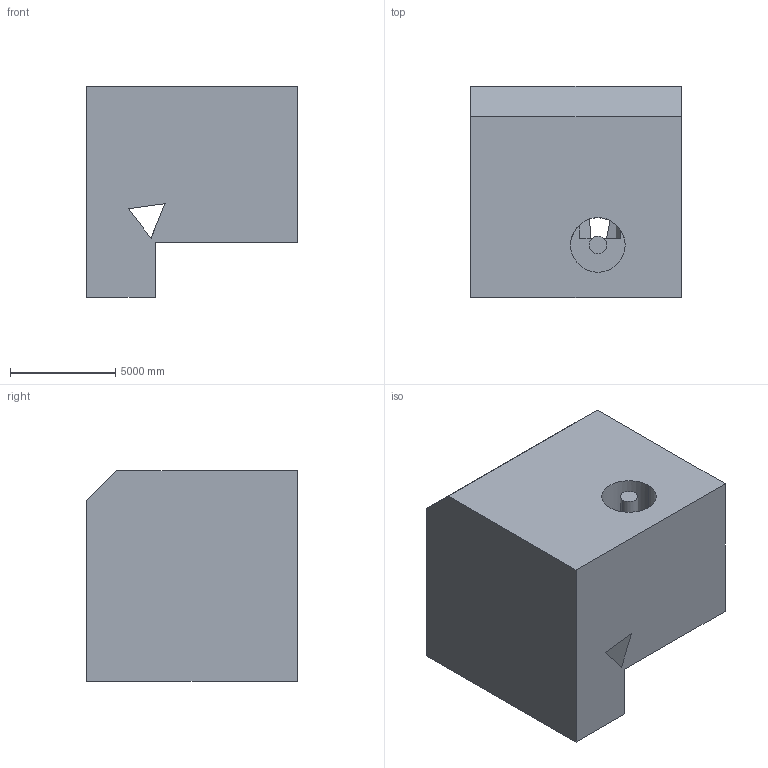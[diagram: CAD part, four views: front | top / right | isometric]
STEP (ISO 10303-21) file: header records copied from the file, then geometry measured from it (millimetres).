
FILE_DESCRIPTION (( 'STEP AP203' ), '1' );
FILE_NAME ('307.STEP', '2022-09-07T12:45:38', ( 'user' ), ( '' ), 'SwSTEP 2.0', 'SolidWorks 2021', '' );
FILE_SCHEMA (( 'CONFIG_CONTROL_DESIGN' ));
Length unit declared in the file: centimetre
Products named in the file (1): 307
Bounding box: 10000 x 10000 x 10000 mm (x, y, z)
Volume: 712395414285.6 mm3; surface area: 742320118.9 mm2
Topology: 1 solids, 1 shells, 36 faces, 111 edges, 74 vertices
Faces by surface type: plane 28, cylinder 8
Entity records: 1326 total; most frequent: CARTESIAN_POINT 285, ORIENTED_EDGE 222, DIRECTION 182, EDGE_CURVE 111, VERTEX_POINT 74, VECTOR 72, LINE 72, AXIS2_PLACEMENT_3D 55
